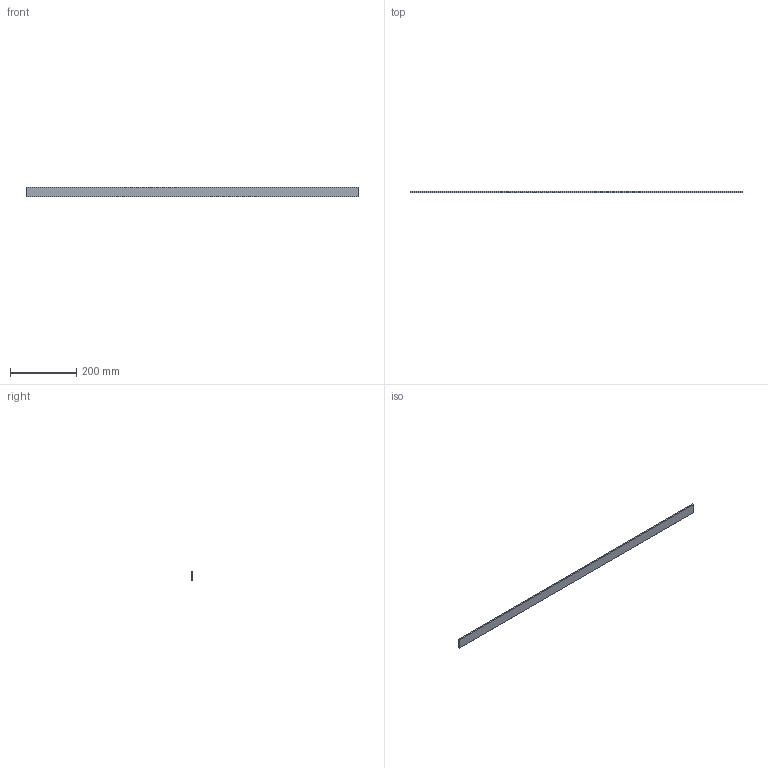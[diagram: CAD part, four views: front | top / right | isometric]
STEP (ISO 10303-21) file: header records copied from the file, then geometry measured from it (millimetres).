
FILE_DESCRIPTION (( 'STEP AP214' ), '1' );
FILE_NAME ('EBSP-4-30.STEP', '2016-01-28T11:45:59', ( '' ), ( '' ), 'SwSTEP 2.0', 'SolidWorks 2012', '' );
FILE_SCHEMA (( 'AUTOMOTIVE_DESIGN' ));
Length unit declared in the file: millimetre
Products named in the file (1): EBSP-4-30
Bounding box: 1000 x 4.2 x 30 mm (x, y, z)
Volume: 126000 mm3; surface area: 128652 mm2
Topology: 2 solids, 2 shells, 12 faces, 24 edges, 16 vertices
Faces by surface type: plane 12
Entity records: 351 total; most frequent: CARTESIAN_POINT 53, DIRECTION 50, ORIENTED_EDGE 48, VECTOR 24, LINE 24, EDGE_CURVE 24, VERTEX_POINT 16, AXIS2_PLACEMENT_3D 13
